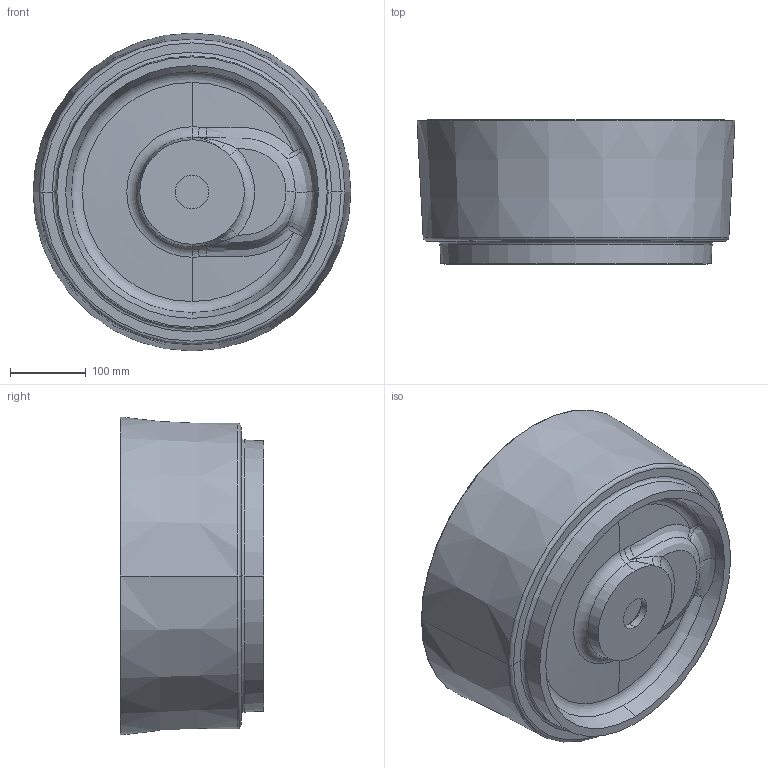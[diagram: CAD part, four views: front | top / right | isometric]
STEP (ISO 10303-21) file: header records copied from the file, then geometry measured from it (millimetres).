
FILE_DESCRIPTION (( 'STEP AP203' ), '1' );
FILE_NAME ('WB 0506 C 420C FV818040.STEP', '2019-07-15T07:24:04', ( 'admin' ), ( 'Hewlett-Packard Company' ), 'SwSTEP 2.0', 'SolidWorks 2019', '' );
FILE_SCHEMA (( 'CONFIG_CONTROL_DESIGN' ));
Length unit declared in the file: millimetre
Products named in the file (1): WB 0506 C 420C FV818040
Bounding box: 419.89 x 190 x 419.89 mm (x, y, z)
Volume: 6192119.7 mm3; surface area: 709570.7 mm2
Topology: 2 solids, 2 shells, 189 faces, 429 edges, 245 vertices
Faces by surface type: bspline 92, cylinder 35, plane 27, cone 18, torus 13, sphere 4
Entity records: 15724 total; most frequent: CARTESIAN_POINT 12095, ORIENTED_EDGE 846, DIRECTION 609, EDGE_CURVE 423, AXIS2_PLACEMENT_3D 263, VERTEX_POINT 243, EDGE_LOOP 196, FACE_OUTER_BOUND 189
